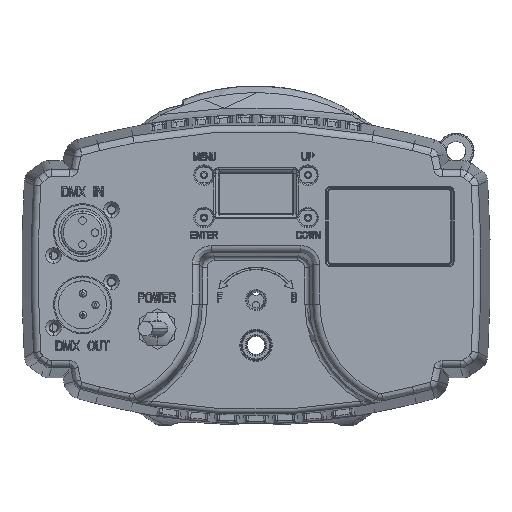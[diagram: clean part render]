
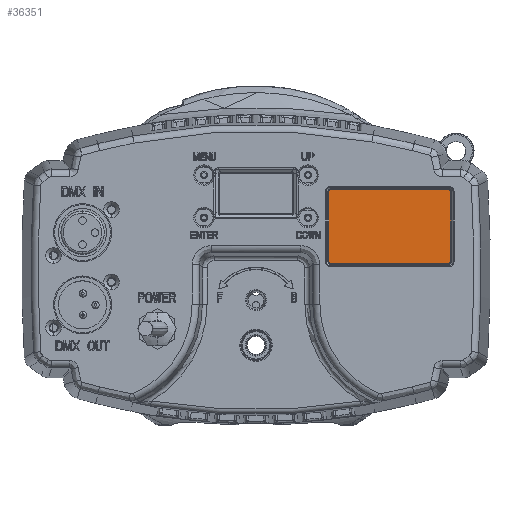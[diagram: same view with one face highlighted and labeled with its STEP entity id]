
A CAD part, top view. The second image highlights one B-rep face of the part: STEP entity #36351.
In plain terms, the highlighted planar face has unit normal (0, 0, 1) as drawn and (0, -1, 0) by its records, which use the part's own axes.
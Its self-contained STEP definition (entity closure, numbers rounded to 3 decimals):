
#1880 = VERTEX_POINT ( 'NONE', #57132 ) ;
#3044 = EDGE_CURVE ( 'NONE', #4979, #260580, #44874, .T. ) ;
#4856 = AXIS2_PLACEMENT_3D ( 'NONE', #111978, #172809, #139360 ) ;
#4979 = VERTEX_POINT ( 'NONE', #256531 ) ;
#7328 = ORIENTED_EDGE ( 'NONE', *, *, #88077, .T. ) ;
#13488 = LINE ( 'NONE', #116613, #207014 ) ;
#17332 = CARTESIAN_POINT ( 'NONE',  ( 80., -51.5, 32.793 ) ) ;
#18877 = VERTEX_POINT ( 'NONE', #135864 ) ;
#25863 = ORIENTED_EDGE ( 'NONE', *, *, #116417, .F. ) ;
#36351 = ADVANCED_FACE ( 'NONE', ( #78186 ), #158813, .T. ) ;
#36971 = CARTESIAN_POINT ( 'NONE',  ( 80., -51.5, 32. ) ) ;
#44874 = LINE ( 'NONE', #162595, #103427 ) ;
#49428 = DIRECTION ( 'NONE',  ( -1., 0., 0. ) ) ;
#54614 = DIRECTION ( 'NONE',  ( 0., -1., 0. ) ) ;
#55284 = VERTEX_POINT ( 'NONE', #102388 ) ;
#57132 = CARTESIAN_POINT ( 'NONE',  ( 80., -51.5, 2.207 ) ) ;
#58132 = DIRECTION ( 'NONE',  ( 1., 0., 0. ) ) ;
#59737 = VERTEX_POINT ( 'NONE', #133020 ) ;
#61694 = AXIS2_PLACEMENT_3D ( 'NONE', #255461, #54614, #196027 ) ;
#64912 = DIRECTION ( 'NONE',  ( 0., -1., 0. ) ) ;
#78186 = FACE_OUTER_BOUND ( 'NONE', #161295, .T. ) ;
#78304 = CIRCLE ( 'NONE', #221696, 0.793 ) ;
#80759 = CARTESIAN_POINT ( 'NONE',  ( 80.793, -51.5, 32. ) ) ;
#84585 = DIRECTION ( 'NONE',  ( 1., 0., 0. ) ) ;
#86145 = DIRECTION ( 'NONE',  ( 0., 0., 1. ) ) ;
#88077 = EDGE_CURVE ( 'NONE', #155147, #59737, #247310, .T. ) ;
#94058 = AXIS2_PLACEMENT_3D ( 'NONE', #248599, #104653, #86145 ) ;
#100562 = LINE ( 'NONE', #80759, #235602 ) ;
#102388 = CARTESIAN_POINT ( 'NONE',  ( 30.207, -51.5, 32. ) ) ;
#103427 = VECTOR ( 'NONE', #84585, 1000. ) ;
#104653 = DIRECTION ( 'NONE',  ( 0., -1., 0. ) ) ;
#111978 = CARTESIAN_POINT ( 'NONE',  ( 80., -51.5, 3. ) ) ;
#116272 = ORIENTED_EDGE ( 'NONE', *, *, #209443, .F. ) ;
#116417 = EDGE_CURVE ( 'NONE', #256837, #18877, #100562, .T. ) ;
#116613 = CARTESIAN_POINT ( 'NONE',  ( 30.207, -51.5, 3. ) ) ;
#133020 = CARTESIAN_POINT ( 'NONE',  ( 31., -51.5, 2.207 ) ) ;
#134343 = EDGE_CURVE ( 'NONE', #1880, #59737, #168467, .T. ) ;
#135864 = CARTESIAN_POINT ( 'NONE',  ( 80.793, -51.5, 3. ) ) ;
#136331 = ORIENTED_EDGE ( 'NONE', *, *, #239845, .T. ) ;
#139360 = DIRECTION ( 'NONE',  ( 0., 0., -1. ) ) ;
#139832 = CIRCLE ( 'NONE', #4856, 0.793 ) ;
#140061 = EDGE_CURVE ( 'NONE', #256837, #260580, #78304, .T. ) ;
#140486 = CIRCLE ( 'NONE', #94058, 0.793 ) ;
#143643 = CARTESIAN_POINT ( 'NONE',  ( 30.207, -51.5, 3. ) ) ;
#145140 = CARTESIAN_POINT ( 'NONE',  ( 80.793, -51.5, 32. ) ) ;
#145512 = DIRECTION ( 'NONE',  ( 0., 0., -1. ) ) ;
#149638 = ORIENTED_EDGE ( 'NONE', *, *, #3044, .F. ) ;
#155147 = VERTEX_POINT ( 'NONE', #143643 ) ;
#156888 = EDGE_CURVE ( 'NONE', #4979, #55284, #140486, .T. ) ;
#158813 = PLANE ( 'NONE',  #260464 ) ;
#161295 = EDGE_LOOP ( 'NONE', ( #248522, #149638, #170757, #116272, #7328, #205065, #136331, #25863 ) ) ;
#162595 = CARTESIAN_POINT ( 'NONE',  ( 31., -51.5, 32.793 ) ) ;
#168467 = LINE ( 'NONE', #251588, #173987 ) ;
#170757 = ORIENTED_EDGE ( 'NONE', *, *, #156888, .T. ) ;
#172809 = DIRECTION ( 'NONE',  ( 0., -1., 0. ) ) ;
#173987 = VECTOR ( 'NONE', #49428, 1000. ) ;
#183844 = CARTESIAN_POINT ( 'NONE',  ( 0., -51.5, 0. ) ) ;
#196027 = DIRECTION ( 'NONE',  ( -1., 0., 0. ) ) ;
#205065 = ORIENTED_EDGE ( 'NONE', *, *, #134343, .F. ) ;
#207014 = VECTOR ( 'NONE', #259251, 1000. ) ;
#209443 = EDGE_CURVE ( 'NONE', #155147, #55284, #13488, .T. ) ;
#221696 = AXIS2_PLACEMENT_3D ( 'NONE', #36971, #239195, #58132 ) ;
#235602 = VECTOR ( 'NONE', #241950, 1000. ) ;
#239195 = DIRECTION ( 'NONE',  ( 0., -1., 0. ) ) ;
#239845 = EDGE_CURVE ( 'NONE', #1880, #18877, #139832, .T. ) ;
#241950 = DIRECTION ( 'NONE',  ( 0., 0., -1. ) ) ;
#247310 = CIRCLE ( 'NONE', #61694, 0.793 ) ;
#248522 = ORIENTED_EDGE ( 'NONE', *, *, #140061, .T. ) ;
#248599 = CARTESIAN_POINT ( 'NONE',  ( 31., -51.5, 32. ) ) ;
#251588 = CARTESIAN_POINT ( 'NONE',  ( 80., -51.5, 2.207 ) ) ;
#255461 = CARTESIAN_POINT ( 'NONE',  ( 31., -51.5, 3. ) ) ;
#256531 = CARTESIAN_POINT ( 'NONE',  ( 31., -51.5, 32.793 ) ) ;
#256837 = VERTEX_POINT ( 'NONE', #145140 ) ;
#259251 = DIRECTION ( 'NONE',  ( 0., 0., 1. ) ) ;
#260464 = AXIS2_PLACEMENT_3D ( 'NONE', #183844, #64912, #145512 ) ;
#260580 = VERTEX_POINT ( 'NONE', #17332 ) ;
